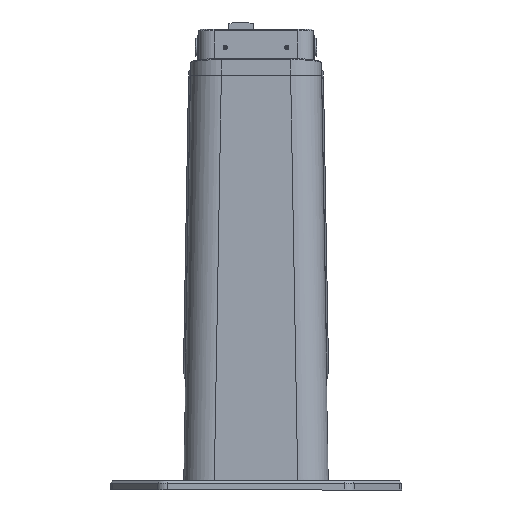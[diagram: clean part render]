
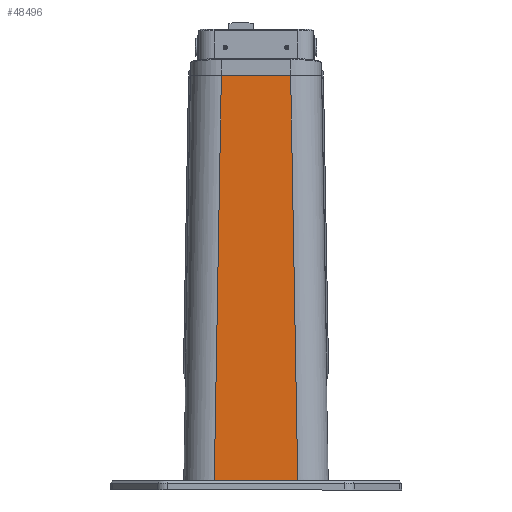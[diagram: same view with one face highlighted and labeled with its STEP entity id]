
A CAD part, front view. The second image highlights one B-rep face of the part: STEP entity #48496.
In plain terms, the highlighted planar face has unit normal (0, -1, 0).
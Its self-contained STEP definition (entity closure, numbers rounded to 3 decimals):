
#1715 = EDGE_LOOP ( 'NONE', ( #8577, #31867, #137623, #173045 ) ) ;
#4380 = VECTOR ( 'NONE', #140166, 1000. ) ;
#8577 = ORIENTED_EDGE ( 'NONE', *, *, #166759, .T. ) ;
#15379 = CARTESIAN_POINT ( 'NONE',  ( -54.779, -92.1, -124.679 ) ) ;
#28781 = DIRECTION ( 'NONE',  ( -0.017, 0., 1. ) ) ;
#31867 = ORIENTED_EDGE ( 'NONE', *, *, #61855, .F. ) ;
#32616 = CARTESIAN_POINT ( 'NONE',  ( 45.5, -92.1, 406.921 ) ) ;
#39815 = DIRECTION ( 'NONE',  ( 0., -1., 0. ) ) ;
#46702 = CARTESIAN_POINT ( 'NONE',  ( 54.779, -92.1, -124.679 ) ) ;
#48496 = ADVANCED_FACE ( 'NONE', ( #172752 ), #132583, .T. ) ;
#52966 = CARTESIAN_POINT ( 'NONE',  ( 0., -92.1, -124.679 ) ) ;
#55971 = VECTOR ( 'NONE', #28781, 1000. ) ;
#60889 = VERTEX_POINT ( 'NONE', #15379 ) ;
#61855 = EDGE_CURVE ( 'NONE', #60889, #79924, #124154, .T. ) ;
#64070 = DIRECTION ( 'NONE',  ( 1., 0., 0. ) ) ;
#76355 = CARTESIAN_POINT ( 'NONE',  ( 0., -92.1, -124.679 ) ) ;
#77208 = LINE ( 'NONE', #76355, #89615 ) ;
#79924 = VERTEX_POINT ( 'NONE', #125979 ) ;
#86880 = LINE ( 'NONE', #32616, #4380 ) ;
#89615 = VECTOR ( 'NONE', #64070, 1000. ) ;
#96164 = LINE ( 'NONE', #162581, #55971 ) ;
#96754 = VERTEX_POINT ( 'NONE', #165842 ) ;
#98015 = VERTEX_POINT ( 'NONE', #46702 ) ;
#106373 = DIRECTION ( 'NONE',  ( 1., 0., 0. ) ) ;
#109301 = CARTESIAN_POINT ( 'NONE',  ( -55.024, -92.1, -138.69 ) ) ;
#118122 = EDGE_CURVE ( 'NONE', #60889, #98015, #77208, .T. ) ;
#124154 = LINE ( 'NONE', #109301, #143334 ) ;
#125979 = CARTESIAN_POINT ( 'NONE',  ( -45.497, -92.1, 406.921 ) ) ;
#126443 = EDGE_CURVE ( 'NONE', #98015, #96754, #96164, .T. ) ;
#132583 = PLANE ( 'NONE',  #172009 ) ;
#137623 = ORIENTED_EDGE ( 'NONE', *, *, #118122, .T. ) ;
#140166 = DIRECTION ( 'NONE',  ( -1., 0., 0. ) ) ;
#143334 = VECTOR ( 'NONE', #162575, 1000. ) ;
#162575 = DIRECTION ( 'NONE',  ( 0.017, 0., 1. ) ) ;
#162581 = CARTESIAN_POINT ( 'NONE',  ( 54.779, -92.1, -124.679 ) ) ;
#165842 = CARTESIAN_POINT ( 'NONE',  ( 45.497, -92.1, 406.921 ) ) ;
#166759 = EDGE_CURVE ( 'NONE', #96754, #79924, #86880, .T. ) ;
#172009 = AXIS2_PLACEMENT_3D ( 'NONE', #52966, #39815, #106373 ) ;
#172752 = FACE_OUTER_BOUND ( 'NONE', #1715, .T. ) ;
#173045 = ORIENTED_EDGE ( 'NONE', *, *, #126443, .T. ) ;
